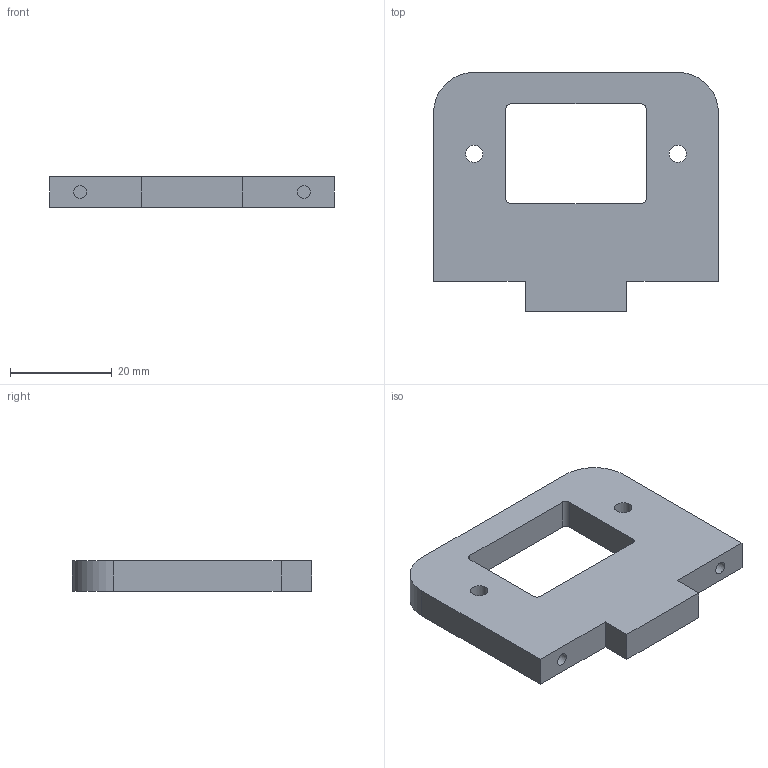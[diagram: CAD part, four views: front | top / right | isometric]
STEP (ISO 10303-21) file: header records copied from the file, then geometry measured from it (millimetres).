
FILE_DESCRIPTION(('Open CASCADE Model'),'2;1');
FILE_NAME('Open CASCADE Shape Model','2026-10-14T18:02:55',('Author'),( 'Open CASCADE'),'Open CASCADE STEP processor 7.9','Open CASCADE 7.9' ,'Unknown');
FILE_SCHEMA(('AUTOMOTIVE_DESIGN { 1 0 10303 214 1 1 1 1 }'));
Length unit declared in the file: millimetre
Products named in the file (1): Open CASCADE STEP translator 7.9 4
Bounding box: 56 x 47 x 6 mm (x, y, z)
Volume: 10883.5 mm3; surface area: 5696.7 mm2
Topology: 1 solids, 1 shells, 26 faces, 66 edges, 44 vertices
Faces by surface type: plane 16, cylinder 10
Full cylindrical faces by diameter (mm): 2.5 x2, 3.4 x2
Entity records: 1666 total; most frequent: CARTESIAN_POINT 309, DIRECTION 252, LINE 142, VECTOR 142, ORIENTED_EDGE 132, PCURVE 132, DEFINITIONAL_REPRESENTATION 132, EDGE_CURVE 66
